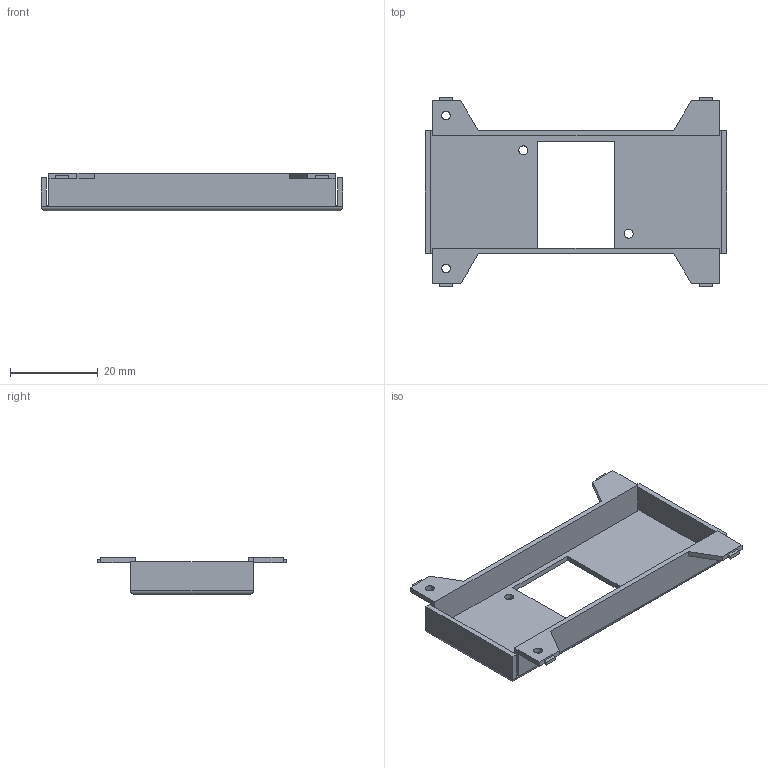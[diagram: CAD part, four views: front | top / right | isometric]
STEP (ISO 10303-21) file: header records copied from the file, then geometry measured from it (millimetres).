
FILE_DESCRIPTION(('FreeCAD Model'),'2;1');
FILE_NAME('Open CASCADE Shape Model','2026-07-27T10:24:23',(''),(''), 'Open CASCADE STEP processor 7.8','FreeCAD','Unknown');
FILE_SCHEMA(('AUTOMOTIVE_DESIGN { 1 0 10303 214 1 1 1 1 }'));
Length unit declared in the file: millimetre
Products named in the file (1): P-201801
Bounding box: 68.7 x 43.2 x 8.5 mm (x, y, z)
Volume: 3586.7 mm3; surface area: 6453.9 mm2
Topology: 1 solids, 1 shells, 58 faces, 167 edges, 110 vertices
Faces by surface type: plane 50, cylinder 8
Full cylindrical faces by diameter (mm): 2 x4
Entity records: 1913 total; most frequent: CARTESIAN_POINT 336, ORIENTED_EDGE 334, DIRECTION 297, EDGE_CURVE 167, LINE 155, VECTOR 155, VERTEX_POINT 110, AXIS2_PLACEMENT_3D 71
